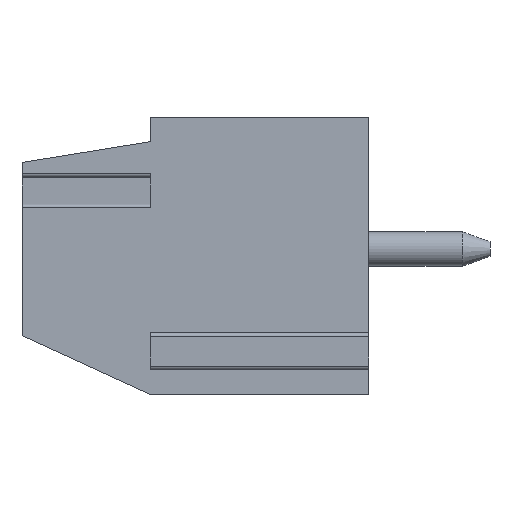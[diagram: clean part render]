
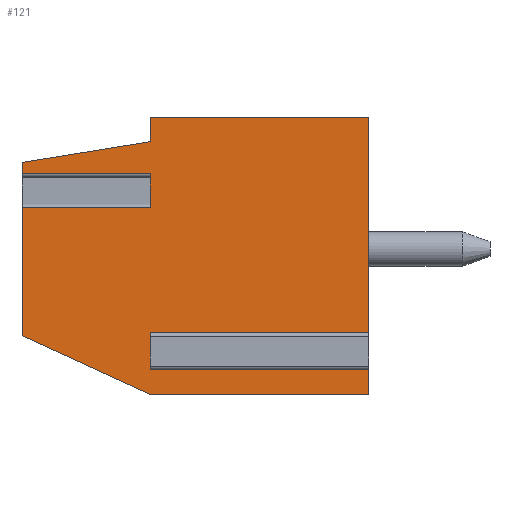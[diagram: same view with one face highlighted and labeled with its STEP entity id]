
A CAD part, left-side view. The second image highlights one B-rep face of the part: STEP entity #121.
In plain terms, the highlighted planar face has unit normal (-1, 0, 0).
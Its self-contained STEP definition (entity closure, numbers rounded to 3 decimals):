
#121 = ADVANCED_FACE( '', ( #301 ), #302, .F. );
#301 = FACE_OUTER_BOUND( '', #547, .T. );
#302 = PLANE( '', #548 );
#547 = EDGE_LOOP( '', ( #839, #840, #841, #842, #843, #844, #845, #846, #847, #848, #849, #850, #851, #852, #853 ) );
#548 = AXIS2_PLACEMENT_3D( '', #854, #855, #856 );
#839 = ORIENTED_EDGE( '', *, *, #1479, .T. );
#840 = ORIENTED_EDGE( '', *, *, #1480, .F. );
#841 = ORIENTED_EDGE( '', *, *, #1481, .F. );
#842 = ORIENTED_EDGE( '', *, *, #1482, .F. );
#843 = ORIENTED_EDGE( '', *, *, #1483, .F. );
#844 = ORIENTED_EDGE( '', *, *, #1484, .F. );
#845 = ORIENTED_EDGE( '', *, *, #1485, .F. );
#846 = ORIENTED_EDGE( '', *, *, #1486, .T. );
#847 = ORIENTED_EDGE( '', *, *, #1487, .F. );
#848 = ORIENTED_EDGE( '', *, *, #1488, .F. );
#849 = ORIENTED_EDGE( '', *, *, #1489, .F. );
#850 = ORIENTED_EDGE( '', *, *, #1490, .F. );
#851 = ORIENTED_EDGE( '', *, *, #1491, .F. );
#852 = ORIENTED_EDGE( '', *, *, #1492, .F. );
#853 = ORIENTED_EDGE( '', *, *, #1493, .F. );
#854 = CARTESIAN_POINT( '', ( 0., 0., 0. ) );
#855 = DIRECTION( '', ( 1., 0., 0. ) );
#856 = DIRECTION( '', ( 0., 0., -1. ) );
#1479 = EDGE_CURVE( '', #1782, #1783, #1784, .T. );
#1480 = EDGE_CURVE( '', #1785, #1783, #1786, .T. );
#1481 = EDGE_CURVE( '', #1787, #1785, #1788, .T. );
#1482 = EDGE_CURVE( '', #1789, #1787, #1790, .T. );
#1483 = EDGE_CURVE( '', #1791, #1789, #1792, .T. );
#1484 = EDGE_CURVE( '', #1793, #1791, #1794, .T. );
#1485 = EDGE_CURVE( '', #1795, #1793, #1796, .T. );
#1486 = EDGE_CURVE( '', #1795, #1797, #1798, .T. );
#1487 = EDGE_CURVE( '', #1799, #1797, #1800, .T. );
#1488 = EDGE_CURVE( '', #1801, #1799, #1802, .T. );
#1489 = EDGE_CURVE( '', #1803, #1801, #1804, .T. );
#1490 = EDGE_CURVE( '', #1805, #1803, #1806, .T. );
#1491 = EDGE_CURVE( '', #1807, #1805, #1808, .T. );
#1492 = EDGE_CURVE( '', #1809, #1807, #1810, .T. );
#1493 = EDGE_CURVE( '', #1782, #1809, #1811, .T. );
#1782 = VERTEX_POINT( '', #2208 );
#1783 = VERTEX_POINT( '', #2209 );
#1784 = LINE( '', #2210, #2211 );
#1785 = VERTEX_POINT( '', #2212 );
#1786 = LINE( '', #2213, #2214 );
#1787 = VERTEX_POINT( '', #2215 );
#1788 = LINE( '', #2216, #2217 );
#1789 = VERTEX_POINT( '', #2218 );
#1790 = LINE( '', #2219, #2220 );
#1791 = VERTEX_POINT( '', #2221 );
#1792 = LINE( '', #2222, #2223 );
#1793 = VERTEX_POINT( '', #2224 );
#1794 = LINE( '', #2225, #2226 );
#1795 = VERTEX_POINT( '', #2227 );
#1796 = LINE( '', #2228, #2229 );
#1797 = VERTEX_POINT( '', #2230 );
#1798 = LINE( '', #2231, #2232 );
#1799 = VERTEX_POINT( '', #2233 );
#1800 = LINE( '', #2234, #2235 );
#1801 = VERTEX_POINT( '', #2236 );
#1802 = LINE( '', #2237, #2238 );
#1803 = VERTEX_POINT( '', #2239 );
#1804 = LINE( '', #2240, #2241 );
#1805 = VERTEX_POINT( '', #2242 );
#1806 = LINE( '', #2243, #2244 );
#1807 = VERTEX_POINT( '', #2245 );
#1808 = LINE( '', #2246, #2247 );
#1809 = VERTEX_POINT( '', #2248 );
#1810 = LINE( '', #2249, #2250 );
#1811 = LINE( '', #2251, #2252 );
#2208 = CARTESIAN_POINT( '', ( 0., 6.3, 5.397 ) );
#2209 = CARTESIAN_POINT( '', ( 0., 10., 5.397 ) );
#2210 = CARTESIAN_POINT( '', ( 0., 6.3, 5.397 ) );
#2211 = VECTOR( '', #2666, 1000. );
#2212 = CARTESIAN_POINT( '', ( 0., 10., 1.7 ) );
#2213 = CARTESIAN_POINT( '', ( 0., 10., 1.7 ) );
#2214 = VECTOR( '', #2667, 1000. );
#2215 = CARTESIAN_POINT( '', ( 0., 6.3, 0. ) );
#2216 = CARTESIAN_POINT( '', ( 0., 6.3, 0. ) );
#2217 = VECTOR( '', #2668, 1000. );
#2218 = CARTESIAN_POINT( '', ( 0., 0., 0. ) );
#2219 = CARTESIAN_POINT( '', ( 0., 0., 0. ) );
#2220 = VECTOR( '', #2669, 1000. );
#2221 = CARTESIAN_POINT( '', ( 0., 0., 0.935 ) );
#2222 = CARTESIAN_POINT( '', ( 0., 0., 8. ) );
#2223 = VECTOR( '', #2670, 1000. );
#2224 = CARTESIAN_POINT( '', ( 0., 6.3, 0.935 ) );
#2225 = CARTESIAN_POINT( '', ( 0., 6.3, 0.935 ) );
#2226 = VECTOR( '', #2671, 1000. );
#2227 = CARTESIAN_POINT( '', ( 0., 6.3, 1.565 ) );
#2228 = CARTESIAN_POINT( '', ( 0., 6.3, 1.565 ) );
#2229 = VECTOR( '', #2672, 1000. );
#2230 = CARTESIAN_POINT( '', ( 0., 0., 1.565 ) );
#2231 = CARTESIAN_POINT( '', ( 0., 6.3, 1.565 ) );
#2232 = VECTOR( '', #2673, 1000. );
#2233 = CARTESIAN_POINT( '', ( 0., 0., 8. ) );
#2234 = CARTESIAN_POINT( '', ( 0., 0., 8. ) );
#2235 = VECTOR( '', #2674, 1000. );
#2236 = CARTESIAN_POINT( '', ( 0., 6.3, 8. ) );
#2237 = CARTESIAN_POINT( '', ( 0., 6.3, 8. ) );
#2238 = VECTOR( '', #2675, 1000. );
#2239 = CARTESIAN_POINT( '', ( 0., 6.3, 7.3 ) );
#2240 = CARTESIAN_POINT( '', ( 0., 6.3, 7.3 ) );
#2241 = VECTOR( '', #2676, 1000. );
#2242 = CARTESIAN_POINT( '', ( 0., 10., 6.7 ) );
#2243 = CARTESIAN_POINT( '', ( 0., 10., 6.7 ) );
#2244 = VECTOR( '', #2677, 1000. );
#2245 = CARTESIAN_POINT( '', ( 0., 10., 6.373 ) );
#2246 = CARTESIAN_POINT( '', ( 0., 10., 1.7 ) );
#2247 = VECTOR( '', #2678, 1000. );
#2248 = CARTESIAN_POINT( '', ( 0., 6.3, 6.373 ) );
#2249 = CARTESIAN_POINT( '', ( 0., 6.3, 6.373 ) );
#2250 = VECTOR( '', #2679, 1000. );
#2251 = CARTESIAN_POINT( '', ( 0., 6.3, 0. ) );
#2252 = VECTOR( '', #2680, 1000. );
#2666 = DIRECTION( '', ( 0., 1., 0. ) );
#2667 = DIRECTION( '', ( 0., 0., 1. ) );
#2668 = DIRECTION( '', ( 0., 0.909, 0.418 ) );
#2669 = DIRECTION( '', ( 0., 1., 0. ) );
#2670 = DIRECTION( '', ( 0., 0., -1. ) );
#2671 = DIRECTION( '', ( 0., -1., 0. ) );
#2672 = DIRECTION( '', ( 0., 0., -1. ) );
#2673 = DIRECTION( '', ( 0., -1., 0. ) );
#2674 = DIRECTION( '', ( 0., 0., -1. ) );
#2675 = DIRECTION( '', ( 0., -1., 0. ) );
#2676 = DIRECTION( '', ( 0., 0., 1. ) );
#2677 = DIRECTION( '', ( 0., -0.987, 0.16 ) );
#2678 = DIRECTION( '', ( 0., 0., 1. ) );
#2679 = DIRECTION( '', ( 0., 1., 0. ) );
#2680 = DIRECTION( '', ( 0., 0., 1. ) );
